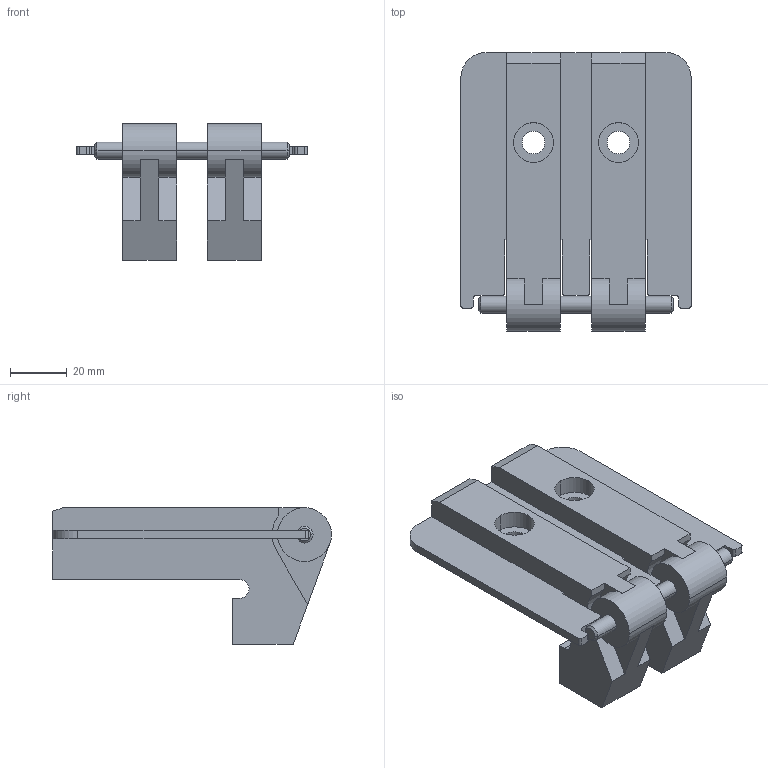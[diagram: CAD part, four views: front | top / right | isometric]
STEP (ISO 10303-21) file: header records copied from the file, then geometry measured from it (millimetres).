
FILE_DESCRIPTION((''),'2;1');
FILE_NAME('PRT0002','2022-07-08T08:48:54',('jwenzel'),('INTRALOX'),'CREO PARAMETRIC BY PTC INC, 2019471','CREO PARAMETRIC BY PTC INC, 2019471','');
FILE_SCHEMA(('AUTOMOTIVE_DESIGN { 1 0 10303 214 1 1 1 1 }'));
Length unit declared in the file: inch
Products named in the file (1): PRT0002
Bounding box: 81.28 x 98.4 x 48.26 mm (x, y, z)
Volume: 117466.2 mm3; surface area: 33378.8 mm2
Topology: 1 solids, 1 shells, 110 faces, 320 edges, 216 vertices
Faces by surface type: plane 70, cylinder 36, cone 4
Entity records: 3738 total; most frequent: CARTESIAN_POINT 648, ORIENTED_EDGE 640, DIRECTION 636, EDGE_CURVE 320, VECTOR 224, LINE 224, VERTEX_POINT 216, AXIS2_PLACEMENT_3D 206
